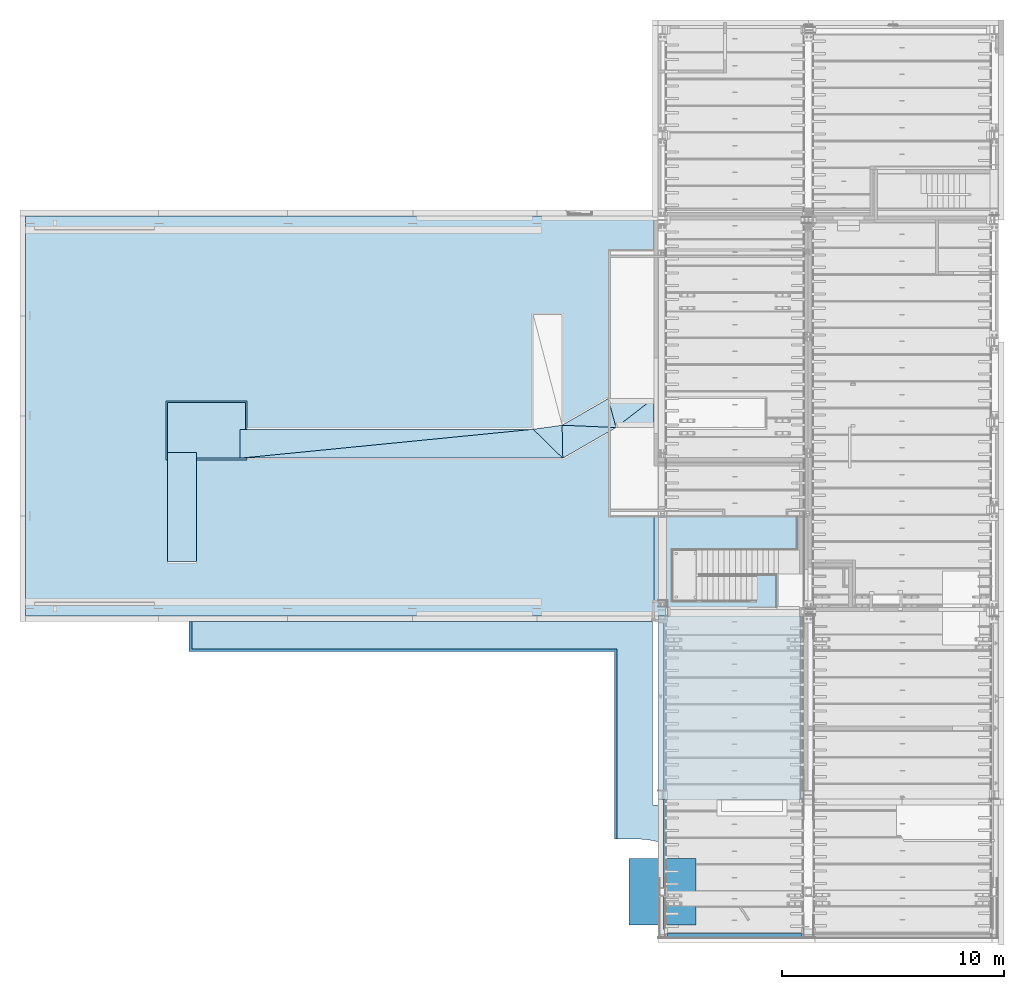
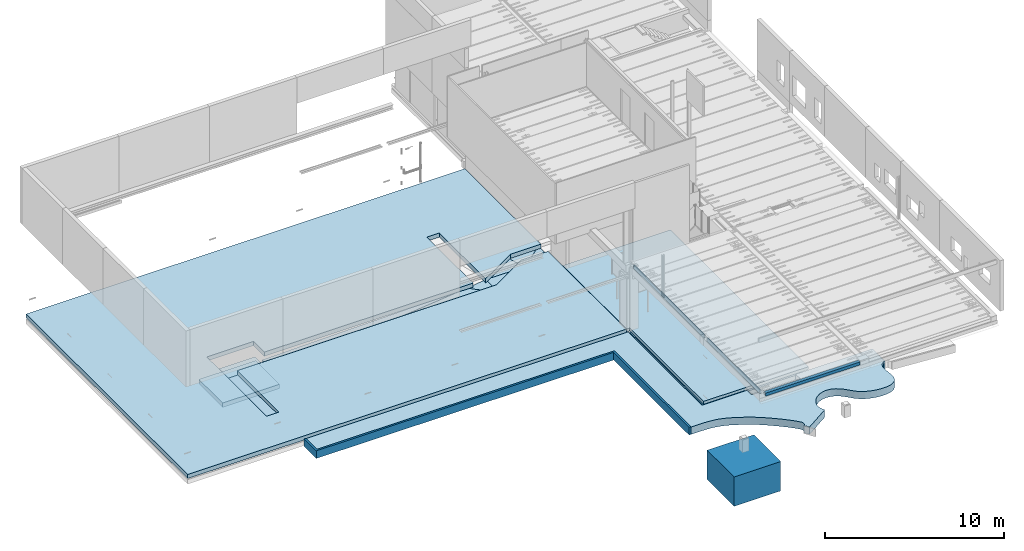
# One storey, part 63 of 230: 19 slabs, 1 element without a shape of its own.
"""IFC4X3_ADD2 building model written with IfcOpenShell, lengths in millimetres."""

from ifc_helpers import new_model, si_unit, direction, frame, frame_2d, origin_with_axes, place, context, subcontext, project, spatial, polyline, rectangle, outline, extrude, clip, bounded_halfspace, material, layer, layer_set, layer_usage, type_object, element, aggregate, save


model = new_model("IFC4X3_ADD2")

# Units and contexts
model_context = context("Model", 3, precision=1e-05, world=origin_with_axes(), true_north=direction((0.0, 1.0)))
body_context = subcontext(model_context, "Body", "Model", "MODEL_VIEW")
ifc_project = project(units=[si_unit("LENGTHUNIT", "METRE", prefix="MILLI"), si_unit("AREAUNIT", "SQUARE_METRE"), si_unit("VOLUMEUNIT", "CUBIC_METRE"), si_unit("PLANEANGLEUNIT", "RADIAN"), si_unit("TIMEUNIT", "SECOND"), si_unit("MASSUNIT", "GRAM")], contexts=[model_context])

# Site, building, storey
site_placement = place(None, origin_with_axes())
site = spatial("IfcSite", under=ifc_project, at=site_placement, Name="Site", CompositionType="ELEMENT")
building_placement = place(site_placement, origin_with_axes())
building = spatial("IfcBuilding", under=site, at=building_placement, Name="IFC Building Story")
storey_placement = place(building_placement, origin_with_axes())
storey = spatial("IfcBuildingStorey", under=building, at=storey_placement, Name="ETAGE 00 (0)", Elevation=0.0)

# Slabs
ifc_material_1 = material(Name="BS_16_Plot en béton maigre")
slab_type_1 = type_object("IfcSlabType", Name="BS_16_Plot en béton maigre 2000", PredefinedType="FLOOR", material=ifc_material_1)
slab_1_placement = place(storey_placement, frame((31901.6894781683, -13888.486405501, -3250.0), z_axis=(0.0, 0.0, 1.0), x_axis=(1.0, 0.0, 0.0)))
element("IfcSlab", 1, at=slab_1_placement, inside=storey, type_object=slab_type_1, Name="BS_17_SFO_UN_Plot rectangulaire:B.A. 300x300x200cm (béton maigre)", ObjectType="BS_17_SFO_UN_Plot rectangulaire:B.A. 300x300x200cm (béton maigre)", PredefinedType="BASESLAB", context=body_context, shape_type="SweptSolid", body=[
    extrude(rectangle(XDim=3000.0, YDim=3000.0, at=frame_2d((0.0, 5.95523630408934e-12), x_axis=(0.0, 1.0))), frame((1500.0, 1500.0, 0.0), z_axis=(0.0, 0.0, 1.0), x_axis=(1.0, 0.0, 0.0)), (0.0, 0.0, 1.0), 2000.0),
])
ifc_material_2 = material(Name="BS_13_Ossature en béton armé - Eléments coulé sur place")
slab_type_2 = type_object("IfcSlabType", Name="Sol:BS_13_FL_BTcoulé200", PredefinedType="FLOOR", material=ifc_material_2)
slab_2_placement = place(storey_placement, frame((33011.68947816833, 7128.839653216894, -200.0), z_axis=(0.0, 0.0, 1.0), x_axis=(0.0, -1.0, 0.0)))
element("IfcSlab", 2, at=slab_2_placement, inside=storey, type_object=slab_type_2, Name="Sol:BS_13_FL_BTcoulé200", ObjectType="Sol:BS_13_FL_BTcoulé200", PredefinedType="FLOOR", context=body_context, shape_type="SweptSolid", body=[
    extrude(outline(polyline([(7862.946596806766, -2186.666666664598), (-367.0534536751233, -2186.666666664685), (-367.0534536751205, -2376.666666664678), (-7495.893143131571, -2376.666666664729), (-7495.893143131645, 4563.333333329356), (7862.946596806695, 4563.333333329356), (7862.946596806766, -2186.666666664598)])), frame((7495.893143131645, 2376.666666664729, 0.0), z_axis=(0.0, 0.0, 1.0), x_axis=(1.0, 0.0, 0.0)), (0.0, 0.0, 1.0), 200.0),
])
ifc_material_3 = material(Name="BS_13_Sable stabilisé")
ifc_layer_1 = layer(ifc_material_3, 50.0)
ifc_material_4 = material(Name="BS_13_Empierrement sous dalle")
ifc_layer_2 = layer(ifc_material_4, 250.0)
ifc_layer_set_1 = layer_set([ifc_layer_1, ifc_layer_2], Name="Sol:BS_13_FL_STAB50-EMPI250 2")
ifc_layer_usage_1 = layer_usage(ifc_layer_set_1, "AXIS3", "POSITIVE", 0.0)
slab_type_3 = type_object("IfcSlabType", Name="Sol:BS_13_FL_STAB50-EMPI250 2 300", PredefinedType="FLOOR", material=ifc_layer_set_1)
slab_3_placement = place(storey_placement, frame((33201.68947816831, -1.000444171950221e-10, -580.0), z_axis=(0.0, 0.0, 1.0), x_axis=(0.0, -1.0, 0.0)))
element("IfcSlab", 3, at=slab_3_placement, inside=storey, type_object=slab_type_3, material=ifc_layer_usage_1, Name="Sol:BS_13_FL_STAB50-EMPI250", ObjectType="Sol:BS_13_FL_STAB50-EMPI250", PredefinedType="FLOOR", context=body_context, shape_type="SweptSolid", body=[
    extrude(rectangle(XDim=8249.7099133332, YDim=6419.999999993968, at=frame_2d((0.0, 5.95523630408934e-12), x_axis=(-1.0, 0.0))), frame((4124.8549566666, 3209.99999999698, 0.0), z_axis=(0.0, 0.0, 1.0), x_axis=(1.0, 0.0, 0.0)), (0.0, 0.0, 1.0), 300.0),
])
ifc_layer_usage_2 = layer_usage(ifc_layer_set_1, "AXIS3", "POSITIVE", 0.0)
slab_4_placement = place(storey_placement, frame((11071.68947818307, 7020.00000000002, -1910.0), z_axis=(0.0, 0.0, 1.0), x_axis=(1.0, 0.0, 0.0)))
element("IfcSlab", 4, at=slab_4_placement, inside=storey, type_object=slab_type_3, material=ifc_layer_usage_2, Name="Sol:BS_13_FL_STAB50-EMPI250", ObjectType="Sol:BS_13_FL_STAB50-EMPI250", PredefinedType="FLOOR", context=body_context, shape_type="SweptSolid", body=[
    extrude(rectangle(XDim=3660.000000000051, YDim=2659.99999999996, at=frame_2d((0.0, 5.95523630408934e-12), x_axis=(1.0, 0.0))), frame((1830.000000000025, 1329.99999999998, 0.0), z_axis=(0.0, 0.0, 1.0), x_axis=(1.0, 0.0, 0.0)), (0.0, 0.0, 1.0), 300.0),
])

slab_5_placement = place(storey_placement, origin_with_axes())
slab_5 = element("IfcSlab", 5, at=slab_5_placement, inside=storey, Name="Sol:BS_13_FL_BTcoulé250", ObjectType="Sol:BS_13_FL_BTcoulé250", PredefinedType="NOTDEFINED")
slab_type_4 = type_object("IfcSlabType", Name="Sol:BS_13_FL_BTcoulé250", PredefinedType="FLOOR", material=ifc_material_2)
slab_6_placement = place(slab_5_placement, frame((14401.68947818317, 7100.000000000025, -930.0), z_axis=(-0.0199044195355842, -0.00477225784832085, 0.9997904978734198), x_axis=(0.999801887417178, -9.500784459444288e-05, 0.01990419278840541)))
slab_6 = element("IfcSlab", 6, at=slab_6_placement, type_object=slab_type_4, Name="Sol:BS_13_FL_BTcoulé250", ObjectType="Sol:BS_13_FL_BTcoulé250", PredefinedType="FLOOR", context=body_context, shape_type="Clipping", body=[
    clip(clip(clip(extrude(outline(polyline([(-8448.197392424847, -261.5213129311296), (-8443.221344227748, -260.3280120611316), (4744.391287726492, 1040.939738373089), (6076.001748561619, -258.9485562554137), (6071.02570036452, -260.1418571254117), (-8448.197392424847, -261.5213129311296)])), frame((8448.197392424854, 261.5213129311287, 0.0), z_axis=(0.0, 0.0, 1.0), x_axis=(1.0, 0.0, 0.0)), (0.0, 0.0, 1.0), 249.9476244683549), bounded_halfspace(frame((-14380.32542299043, 4.439079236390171, 1216.462432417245), z_axis=(9.500784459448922e-05, -0.9999886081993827, 0.004772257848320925), x_axis=(0.9998018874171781, 0.0, -0.01990441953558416)), False, frame((8448.197392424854, 261.5213129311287, 0.0), z_axis=(0.0, 0.0, 1.0), x_axis=(1.0, 0.0, 0.0)), polyline([(-8448.197392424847, -261.5213129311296), (6071.02570036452, -260.1418571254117), (6076.001748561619, -258.9485562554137), (-8443.221344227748, -260.3280120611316), (-8448.197392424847, -261.5213129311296)]))), bounded_halfspace(frame((3278.696429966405, 10993.79738528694, 812.4347690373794), z_axis=(0.6984272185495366, 0.7154714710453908, -0.01732034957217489), x_axis=(-0.715404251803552, 0.698625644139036, 0.01090714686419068)), False, frame((8448.197392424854, 261.5213129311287, 0.0), z_axis=(0.0, 0.0, 1.0), x_axis=(1.0, 0.0, 0.0)), polyline([(6071.02570036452, -260.1418571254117), (4739.415239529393, 1039.746437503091), (4744.391287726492, 1040.939738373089), (6076.001748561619, -258.9485562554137), (6071.02570036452, -260.1418571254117)]))), bounded_halfspace(frame((-14934.71767275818, -1470.191920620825, 1234.539663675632), z_axis=(-0.09819621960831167, 0.9951631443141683, -0.002796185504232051), x_axis=(-0.9949680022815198, -0.09811999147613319, 0.02027662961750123)), False, frame((8448.197392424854, 261.5213129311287, 0.0), z_axis=(0.0, 0.0, 1.0), x_axis=(1.0, 0.0, 0.0)), polyline([(4739.415239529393, 1039.746437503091), (-8448.197392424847, -261.5213129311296), (-8443.221344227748, -260.3280120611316), (4744.391287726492, 1040.939738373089), (4739.415239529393, 1039.746437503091)]))),
])
slab_7_placement = place(slab_5_placement, frame((14401.68947818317, 7100.000000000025, -930.0), z_axis=(-0.0203749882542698, 0.0, 0.9997924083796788), x_axis=(0.9949659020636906, 0.09814128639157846, 0.0202766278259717)))
slab_7 = element("IfcSlab", 7, at=slab_7_placement, type_object=slab_type_4, Name="Sol:BS_13_FL_BTcoulé250", ObjectType="Sol:BS_13_FL_BTcoulé250", PredefinedType="FLOOR", context=body_context, shape_type="SweptSolid", body=[
    extrude(outline(polyline([(8791.910389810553, -431.5996129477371), (-4459.747031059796, -431.0623130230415), (-4332.163358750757, 862.6619259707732), (8791.910389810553, -431.5996129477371)])), frame((4459.7470310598, 431.0623130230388, 0.0), z_axis=(0.0, 0.0, 1.0), x_axis=(1.0, 0.0, 0.0)), (0.02027662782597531, -0.001999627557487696, 0.9997924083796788), 250.0),
])
slab_8_placement = place(slab_5_placement, frame((28918.03613018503, 7099.999999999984, -645.3999999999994), z_axis=(-0.02450045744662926, 0.002448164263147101, 0.9996968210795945), x_axis=(0.8657085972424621, 0.5001489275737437, 0.01999187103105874)))
slab_8 = element("IfcSlab", 8, at=slab_8_placement, type_object=slab_type_4, Name="Sol:BS_13_FL_BTcoulé250", ObjectType="Sol:BS_13_FL_BTcoulé250", PredefinedType="FLOOR", context=body_context, shape_type="Clipping", body=[
    clip(clip(clip(extrude(outline(polyline([(1516.429442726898, -262.6178242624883), (-1244.12238807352, -261.8244195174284), (-1249.120355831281, -258.2311009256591), (-534.6181737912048, 1041.697850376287), (1511.431474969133, -259.0245056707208), (1516.429442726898, -262.6178242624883)])), frame((1249.208320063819, 258.1678585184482, 4.398666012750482), z_axis=(0.0, 0.0, 1.0), x_axis=(1.0, 0.0, 0.0)), (0.0, 0.0, 1.0), 249.9242052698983), bounded_halfspace(frame((-28575.13530774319, -9.276511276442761, 1216.906026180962), z_axis=(-0.0002873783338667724, -0.9998966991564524, -0.01437040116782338), x_axis=(0.999800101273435, 0.0, -0.01999393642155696)), False, frame((1249.208320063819, 258.1678585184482, 4.398666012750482), z_axis=(0.0, 0.0, 1.0), x_axis=(1.0, 0.0, 0.0)), polyline([(-1249.120355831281, -258.2311009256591), (1511.431474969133, -259.0245056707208), (1516.429442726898, -262.6178242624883), (-1244.12238807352, -261.8244195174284), (-1249.120355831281, -258.2311009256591)]))), bounded_halfspace(frame((-23313.54489407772, 16572.88195253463, 1350.097283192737), z_axis=(0.5364905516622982, 0.8439051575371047, 0.001404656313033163), x_axis=(-0.8436694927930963, 0.5362998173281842, 0.02458236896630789)), False, frame((1249.208320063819, 258.1678585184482, 4.398666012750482), z_axis=(0.0, 0.0, 1.0), x_axis=(1.0, 0.0, 0.0)), polyline([(1511.431474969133, -259.0245056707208), (-534.6181737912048, 1041.697850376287), (-529.6202060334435, 1038.104531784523), (1516.429442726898, -262.6178242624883), (1511.431474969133, -259.0245056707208)]))), bounded_halfspace(frame((-3112.309803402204, -5694.152879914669, 625.9670545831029), z_axis=(-0.8760846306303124, 0.481537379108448, 0.02444325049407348), x_axis=(-0.4817427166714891, -0.8763076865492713, -0.002965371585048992)), False, frame((1249.208320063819, 258.1678585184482, 4.398666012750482), z_axis=(0.0, 0.0, 1.0), x_axis=(1.0, 0.0, 0.0)), polyline([(-534.6181737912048, 1041.697850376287), (-1249.120355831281, -258.2311009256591), (-1244.12238807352, -261.8244195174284), (-529.6202060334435, 1038.104531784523), (-534.6181737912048, 1041.697850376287)]))),
])
slab_9_placement = place(slab_5_placement, frame((27586.68947813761, 8399.99999999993, -661.3000000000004), z_axis=(-0.01260987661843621, 0.002700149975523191, 0.9999168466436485), x_axis=(0.7153846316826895, -0.6986457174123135, 0.01090826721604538)))
slab_9 = element("IfcSlab", 9, at=slab_9_placement, type_object=slab_type_4, Name="Sol:BS_13_FL_BTcoulé250", ObjectType="Sol:BS_13_FL_BTcoulé250", PredefinedType="FLOOR", context=body_context, shape_type="Clipping", body=[
    clip(clip(clip(extrude(outline(polyline([(-261.3306284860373, 624.5260721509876), (797.2427540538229, -414.584624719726), (794.5156872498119, -416.3041723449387), (-1066.370117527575, -416.4437996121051), (-264.0576952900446, 622.8065245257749), (-261.3306284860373, 624.5260721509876)])), frame((1066.370117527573, 416.4437996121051, 0.0), z_axis=(0.0, 0.0, 1.0), x_axis=(1.0, 0.0, 0.0)), (0.0, 0.0, 1.0), 249.9792116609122), bounded_halfspace(frame((6497.268495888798, -4540.065447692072, 621.7051909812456), z_axis=(0.700460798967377, 0.7135805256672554, -0.01254999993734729), x_axis=(-0.7136075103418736, 0.7005394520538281, 0.002966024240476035)), False, frame((1066.370117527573, 416.4437996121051, 0.0), z_axis=(0.0, 0.0, 1.0), x_axis=(1.0, 0.0, 0.0)), polyline([(794.5156872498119, -416.3041723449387), (-264.0576952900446, 622.8065245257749), (-261.3306284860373, 624.5260721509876), (797.2427540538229, -414.584624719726), (794.5156872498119, -416.3041723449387)]))), bounded_halfspace(frame((-17399.29106223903, -22544.92536244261, 1006.248080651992), z_axis=(-0.7915515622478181, 0.6110863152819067, 0.004431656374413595), x_axis=(-0.611005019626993, -0.7915340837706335, 0.01211033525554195)), False, frame((1066.370117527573, 416.4437996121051, 0.0), z_axis=(0.0, 0.0, 1.0), x_axis=(1.0, 0.0, 0.0)), polyline([(-264.0576952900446, 622.8065245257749), (-1066.370117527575, -416.4437996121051), (-1063.643050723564, -414.7242519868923), (-261.3306284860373, 624.5260721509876), (-264.0576952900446, 622.8065245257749)]))), bounded_halfspace(frame((-13861.15303618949, 4.548547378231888, 812.5374406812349), z_axis=(7.503091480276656e-05, -0.9999763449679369, 0.006877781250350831), x_axis=(0.9999405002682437, 0.0, -0.0109085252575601)), False, frame((1066.370117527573, 416.4437996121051, 0.0), z_axis=(0.0, 0.0, 1.0), x_axis=(1.0, 0.0, 0.0)), polyline([(-1066.370117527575, -416.4437996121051), (794.5156872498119, -416.3041723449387), (797.2427540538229, -414.584624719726), (-1063.643050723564, -414.7242519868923), (-1066.370117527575, -416.4437996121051)]))),
])
slab_10_placement = place(slab_5_placement, frame((31937.1432305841, 7665.641439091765, -585.8), z_axis=(-0.0212613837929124, 0.0, 0.9997739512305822), x_axis=(0.7912273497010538, 0.6112905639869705, 0.01682639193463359)))
slab_10 = element("IfcSlab", 10, at=slab_10_placement, type_object=slab_type_4, Name="Sol:BS_13_FL_BTcoulé250", ObjectType="Sol:BS_13_FL_BTcoulé250", PredefinedType="FLOOR", context=body_context, shape_type="Clipping", body=[
    clip(clip(extrude(outline(polyline([(728.3787896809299, 258.7153182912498), (732.5853876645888, 255.4660974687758), (-62.09234551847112, -773.3620224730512), (-1398.871831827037, 259.1806067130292), (728.3787896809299, 258.7153182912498)])), frame((1399.096864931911, 769.6475132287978, 13.3707949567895), z_axis=(0.0, 0.0, 1.0), x_axis=(1.0, 0.0, 0.0)), (0.0, 0.0, 1.0), 249.9434878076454), bounded_halfspace(frame((-3841.691545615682, -6718.738541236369, 563.2464681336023), z_axis=(0.7912273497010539, -0.6111523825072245, -0.02126138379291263), x_axis=(0.6112905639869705, 0.7914062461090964, 0.0)), False, frame((1399.096864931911, 769.6475132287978, 13.3707949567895), z_axis=(0.0, 0.0, 1.0), x_axis=(1.0, 0.0, 0.0)), polyline([(-66.29894350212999, -770.1128016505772), (728.3787896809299, 258.7153182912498), (732.5853876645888, 255.4660974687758), (-62.09234551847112, -773.3620224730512), (-66.29894350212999, -770.1128016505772)]))), bounded_halfspace(frame((-29948.33582579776, 1021.21454571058, 1103.244429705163), z_axis=(0.0002187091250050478, 0.9999155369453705, 0.01299504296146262), x_axis=(-0.9998584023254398, 0.0, 0.01682781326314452)), False, frame((1399.096864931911, 769.6475132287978, 13.3707949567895), z_axis=(0.0, 0.0, 1.0), x_axis=(1.0, 0.0, 0.0)), polyline([(728.3787896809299, 258.7153182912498), (-1398.871831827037, 259.1806067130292), (-1394.665233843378, 255.9313858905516), (732.5853876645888, 255.4660974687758), (728.3787896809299, 258.7153182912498)]))),
])
slab_11_placement = place(slab_5_placement, frame((31308.26624463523, 8480.000000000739, -590.0), z_axis=(-0.01968353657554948, -0.002044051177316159, 0.9998041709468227), x_axis=(0.7912539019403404, 0.6112561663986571, 0.01682740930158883)))
slab_11 = element("IfcSlab", 11, at=slab_11_placement, type_object=slab_type_4, Name="Sol:BS_13_FL_BTcoulé250", ObjectType="Sol:BS_13_FL_BTcoulé250", PredefinedType="FLOOR", context=body_context, shape_type="Clipping", body=[
    clip(clip(clip(extrude(outline(polyline([(-116.6091929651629, 746.7134306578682), (-112.4023406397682, 744.1098507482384), (1495.906555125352, -498.0575088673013), (-631.3440845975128, -497.6846762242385), (-635.5509369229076, -495.0810963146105), (-116.6091929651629, 746.7134306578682)])), frame((635.621612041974, 495.0373561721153, 4.199177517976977), z_axis=(0.0, 0.0, 1.0), x_axis=(1.0, 0.0, 0.0)), (0.0, 0.0, 1.0), 249.9510427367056), bounded_halfspace(frame((-29948.48933129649, -6.144448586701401, 1094.105755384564), z_axis=(-0.0001752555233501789, -0.99994576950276, -0.01041284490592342), x_axis=(0.9998583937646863, 0.0, -0.01682832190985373)), False, frame((635.621612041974, 495.0373561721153, 4.199177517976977), z_axis=(0.0, 0.0, 1.0), x_axis=(1.0, 0.0, 0.0)), polyline([(-635.5509369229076, -495.0810963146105), (1491.699702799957, -495.4539289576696), (1495.906555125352, -498.0575088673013), (-631.3440845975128, -497.6846762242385), (-635.5509369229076, -495.0810963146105)]))), bounded_halfspace(frame((-23968.22664124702, 20157.41480798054, 1203.484598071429), z_axis=(0.6112561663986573, 0.7914301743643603, -0.002044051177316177), x_axis=(-0.7912539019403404, 0.6111708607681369, 0.01968353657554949)), False, frame((635.621612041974, 495.0373561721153, 4.199177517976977), z_axis=(0.0, 0.0, 1.0), x_axis=(1.0, 0.0, 0.0)), polyline([(1491.699702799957, -495.4539289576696), (-116.6091929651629, 746.7134306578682), (-112.4023406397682, 744.1098507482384), (1495.906555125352, -498.0575088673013), (1491.699702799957, -495.4539289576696)]))), bounded_halfspace(frame((-23.95980655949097, -87.22232236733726, 589.6102831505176), z_axis=(-0.9224973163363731, 0.3855085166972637, 0.01954187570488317), x_axis=(-0.3856365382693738, -0.9226455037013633, -0.003120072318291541)), False, frame((635.621612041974, 495.0373561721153, 4.199177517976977), z_axis=(0.0, 0.0, 1.0), x_axis=(1.0, 0.0, 0.0)), polyline([(-116.6091929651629, 746.7134306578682), (-635.5509369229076, -495.0810963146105), (-631.3440845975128, -497.6846762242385), (-112.4023406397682, 744.1098507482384), (-116.6091929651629, 746.7134306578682)]))),
])
slab_12_placement = place(slab_5_placement, frame((28886.689478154, 8583.012701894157, -645.3999999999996), z_axis=(-0.02474909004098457, -0.00340173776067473, 0.999687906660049), x_axis=(0.9987898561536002, -0.04259757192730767, 0.02458190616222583)))
slab_12 = element("IfcSlab", 12, at=slab_12_placement, type_object=slab_type_4, Name="Sol:BS_13_FL_BTcoulé250", ObjectType="Sol:BS_13_FL_BTcoulé250", PredefinedType="FLOOR", context=body_context, shape_type="Clipping", body=[
    clip(clip(clip(extrude(outline(polyline([(246.5516804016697, 771.1144613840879), (649.9441838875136, -512.8748956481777), (643.798707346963, -513.9878637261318), (-1780.700775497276, -514.253195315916), (240.4062038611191, 770.0014933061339), (246.5516804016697, 771.1144613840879)])), frame((1780.700775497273, 514.2531953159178, 0.0), z_axis=(0.0, 0.0, 1.0), x_axis=(1.0, 0.0, 0.0)), (0.0, 0.0, 1.0), 249.9219766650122), bounded_halfspace(frame((2465.231606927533, -80.96374734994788, 585.3430298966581), z_axis=(0.9537318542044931, 0.2996351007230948, -0.02478621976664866), x_axis=(-0.2996519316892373, 0.9540434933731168, 0.003119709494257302)), False, frame((1780.700775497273, 514.2531953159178, 0.0), z_axis=(0.0, 0.0, 1.0), x_axis=(1.0, 0.0, 0.0)), polyline([(643.798707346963, -513.9878637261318), (240.4062038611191, 770.0014933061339), (246.5516804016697, 771.1144613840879), (649.9441838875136, -512.8748956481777), (643.798707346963, -513.9878637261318)]))), bounded_halfspace(frame((-24710.76288366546, -15716.53062349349, 1323.218609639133), z_axis=(-0.5362855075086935, 0.8439839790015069, 0.009428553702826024), x_axis=(-0.8436786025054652, -0.5363499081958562, 0.02313420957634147)), False, frame((1780.700775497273, 514.2531953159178, 0.0), z_axis=(0.0, 0.0, 1.0), x_axis=(1.0, 0.0, 0.0)), polyline([(240.4062038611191, 770.0014933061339), (-1780.700775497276, -514.253195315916), (-1774.555298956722, -513.1402272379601), (246.5516804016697, 771.1144613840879), (240.4062038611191, 770.0014933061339)]))), bounded_halfspace(frame((-28471.32456940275, 2.873238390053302, 1345.686617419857), z_axis=(0.0001094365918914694, -0.9999900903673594, 0.004450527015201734), x_axis=(0.9996978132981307, 0.0, -0.0245821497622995)), False, frame((1780.700775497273, 514.2531953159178, 0.0), z_axis=(0.0, 0.0, 1.0), x_axis=(1.0, 0.0, 0.0)), polyline([(-1780.700775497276, -514.253195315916), (643.798707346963, -513.9878637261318), (649.9441838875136, -512.8748956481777), (-1774.555298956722, -513.1402272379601), (-1780.700775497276, -514.253195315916)]))),
])
slab_13_placement = place(slab_5_placement, frame((11151.68947818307, 7349.999999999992, -560.0), z_axis=(0.0, 0.0199960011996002, 0.999800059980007), x_axis=(0.0, -0.9998000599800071, 0.0199960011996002)))
slab_13 = element("IfcSlab", 13, at=slab_13_placement, type_object=slab_type_4, Name="Sol:BS_13_FL_BTcoulé250", ObjectType="Sol:BS_13_FL_BTcoulé250", PredefinedType="FLOOR", context=body_context, shape_type="Clipping", body=[
    clip(clip(extrude(outline(polyline([(-2452.989451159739, 650.0000000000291), (2452.989451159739, 650.0000000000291), (2452.989451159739, -650.0000000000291), (-2452.989451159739, -650.0000000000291), (-2452.989451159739, 650.0000000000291)])), frame((2452.989451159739, 650.0000000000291, 0.0), z_axis=(0.0, 0.0, 1.0), x_axis=(1.0, 0.0, 0.0)), (0.0, 0.0, 1.0), 249.9500149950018), bounded_halfspace(frame((4910.218054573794, -11151.68947818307, 461.9076277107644), z_axis=(0.999800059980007, 0.0, -0.01999600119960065), x_axis=(0.0, 1.0, 0.0)), False, frame((2452.989451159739, 650.0000000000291, 0.0), z_axis=(0.0, 0.0, 1.0), x_axis=(1.0, 0.0, 0.0)), polyline([(2447.990450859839, -650.0000000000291), (2447.990450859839, 650.0000000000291), (2452.989451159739, 650.0000000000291), (2452.989451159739, -650.0000000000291), (2447.990450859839, -650.0000000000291)]))), bounded_halfspace(frame((11.19776067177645, -11151.68947818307, 559.8880335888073), z_axis=(-0.999800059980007, 0.0, 0.01999600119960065), x_axis=(0.0, -1.0, 0.0)), False, frame((2452.989451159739, 650.0000000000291, 0.0), z_axis=(0.0, 0.0, 1.0), x_axis=(1.0, 0.0, 0.0)), polyline([(-2452.989451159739, 650.0000000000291), (-2452.989451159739, -650.0000000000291), (-2447.99045085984, -650.0000000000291), (-2447.99045085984, 650.0000000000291), (-2452.989451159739, 650.0000000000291)]))),
])
aggregate(slab_5, [slab_6, slab_7, slab_8, slab_9, slab_10, slab_11, slab_12, slab_13])

slab_14_placement = place(storey_placement, frame((11151.68947818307, 7100.701776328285, -1530.0), z_axis=(0.0, 0.0, 1.0), x_axis=(1.0, 0.0, 0.0)))
element("IfcSlab", 14, at=slab_14_placement, inside=storey, type_object=slab_type_4, Name="Sol:BS_13_FL_BTcoulé250", ObjectType="Sol:BS_13_FL_BTcoulé250", PredefinedType="FLOOR", context=body_context, shape_type="SweptSolid", body=[
    extrude(rectangle(XDim=3500.000000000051, YDim=2499.99999999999, at=frame_2d((0.0, 5.95523630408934e-12), x_axis=(1.0, 0.0))), frame((1750.000000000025, 1249.999999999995, 0.0), z_axis=(0.0, 0.0, 1.0), x_axis=(1.0, 0.0, 0.0)), (0.0, 0.0, 1.0), 250.0),
])
slab_type_5 = type_object("IfcSlabType", Name="Sol:BS_13_FL_BTcoulé280", PredefinedType="FLOOR", material=ifc_material_2)
slab_15_placement = place(storey_placement, frame((4766.189478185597, -8.141796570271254e-09, -280.0), z_axis=(0.0, 0.0, 1.0), x_axis=(1.0, 0.0, 0.0)))
element("IfcSlab", 15, at=slab_15_placement, inside=storey, type_object=slab_type_5, Name="Sol:BS_13_FL_BTcoulé280", ObjectType="Sol:BS_13_FL_BTcoulé280", PredefinedType="FLOOR", context=body_context, shape_type="SweptSolid", body=[
    extrude(outline(polyline([(10803.51689806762, 184.2105263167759), (10803.51689806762, -8545.789473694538), (-17421.98310191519, -8545.789473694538), (-17421.98310191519, 9454.21052631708), (10803.51689806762, 9454.21052631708), (10803.51689806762, 984.210526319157), (8838.747012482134, 984.210526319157), (6448.516898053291, -395.7894736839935), (6448.516898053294, 4754.210526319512), (5648.516898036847, 4754.210526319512), (5648.516898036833, -395.7894736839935), (-7786.483101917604, -395.7894736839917), (-7786.483101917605, 804.2105263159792), (-10786.48310191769, 804.2105263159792), (-10786.48310191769, -5845.789473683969), (-9986.483101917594, -5845.78947368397), (-9986.483101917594, -1195.789473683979), (6662.876251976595, -1195.789473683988), (9053.106366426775, 184.2105263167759), (10803.51689806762, 184.2105263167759)])), frame((17421.98310191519, 8545.78947369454, 0.0), z_axis=(0.0, 0.0, 1.0), x_axis=(1.0, 0.0, 0.0)), (0.0, 0.0, 1.0), 280.0),
])
ifc_material_5 = material(Name="BS_92_Klinker")
ifc_layer_3 = layer(ifc_material_5, 200.0)
ifc_layer_4 = layer(ifc_material_3, 150.0)
ifc_layer_5 = layer(ifc_material_4, 150.0)
ifc_layer_set_2 = layer_set([ifc_layer_3, ifc_layer_4, ifc_layer_5], Name="Sol:BS_13_FL_BTcoulé500 exterieur")
ifc_layer_usage_3 = layer_usage(ifc_layer_set_2, "AXIS3", "POSITIVE", 0.0)
slab_type_6 = type_object("IfcSlabType", Name="Sol:BS_13_FL_BTcoulé500 exterieur 500", PredefinedType="FLOOR", material=ifc_layer_set_2)
slab_16_placement = place(storey_placement, frame((12238.36986744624, -13311.7536219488, -520.0), z_axis=(0.0, 0.0, 1.0), x_axis=(1.0, 0.0, 0.0)))
element("IfcSlab", 16, at=slab_16_placement, inside=storey, type_object=slab_type_6, material=ifc_layer_usage_3, Name="Sol:BS_13_FL_BTcoulé500 exterieur", ObjectType="Sol:BS_13_FL_BTcoulé500 exterieur", PredefinedType="FLOOR", context=body_context, shape_type="SweptSolid", body=[
    extrude(outline(polyline([(-5907.951591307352, 751.4810336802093), (-5907.951591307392, 9281.485557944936), (-25033.69032519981, 9281.485557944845), (-25033.69032519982, 10511.4855579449), (-4320.370714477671, 10511.4855579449), (-4320.370714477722, 2281.775644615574), (-1415.370714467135, 2281.775644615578), (-1415.370714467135, 1782.645818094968), (1714.629285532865, 1782.645818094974), (1714.629285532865, 2281.485471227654), (6653.075538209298, 2281.485471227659), (6653.075538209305, 888.4019057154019), (6561.336788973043, 882.7081101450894), (6359.399519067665, 731.1043379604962), (6271.443629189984, 497.8035781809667), (6259.498640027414, 209.6597259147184), (6311.714563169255, -423.7575109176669), (6299.912075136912, -715.3310229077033), (6213.580787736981, -955.12218490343), (6043.754675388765, -1132.478093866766), (5806.911453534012, -1250.948967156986), (5520.478041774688, -1314.614883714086), (5201.88135971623, -1327.55592247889), (4868.548326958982, -1293.85216239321), (4537.905863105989, -1217.583682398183), (4227.380887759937, -1102.830561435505), (3954.40032052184, -953.6728784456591), (3733.587066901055, -774.8888239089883), (3370.652968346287, -381.4890731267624), (3166.225330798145, -200.1595589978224), (2932.653807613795, -51.76094044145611), (2677.15081357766, 46.40783289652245), (2407.264813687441, 77.90868586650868), (2135.090312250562, 39.91763861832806), (1876.348756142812, -59.5276267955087), (1646.598418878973, -212.1215970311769), (1457.737673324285, -410.0371218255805), (1318.989912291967, -645.7966810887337), (1241.793943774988, -908.5727965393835), (1246.023284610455, -1174.318639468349), (1330.714506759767, -1428.287055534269), (1385.384887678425, -1523.535965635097), (-182.9204773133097, -2550.268063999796), (-365.8769199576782, -2271.355140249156), (-358.9169815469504, -2263.722159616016), (-351.0845695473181, -2254.156548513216), (-327.2941885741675, -2222.600961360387), (-306.7216415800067, -2190.604193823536), (-300.695746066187, -2179.539666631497), (-298.0395957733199, -2170.930660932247), (-294.2244506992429, -2141.914568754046), (-289.7888037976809, -2113.141026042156), (-286.4184540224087, -2075.188355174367), (-288.2914605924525, -2030.837318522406), (-299.5930988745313, -1982.823607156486), (-325.0840615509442, -1930.288915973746), (-370.5102145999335, -1866.221650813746), (-441.7140950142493, -1783.006420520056), (-544.4560100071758, -1673.299122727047), (-683.2290328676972, -1533.936456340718), (-861.5315296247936, -1365.036813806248), (-1082.83514563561, -1166.80674318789), (-1348.067375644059, -941.5259190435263), (-1643.919402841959, -703.0746163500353), (-1952.133242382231, -469.3659890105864), (-2254.472724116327, -258.2879324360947), (-2539.615730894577, -80.16277682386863), (-2812.322582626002, 72.28503502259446), (-3079.635142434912, 208.82759366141), (-3348.602711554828, 338.8866177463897), (-3626.461515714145, 463.0787583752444), (-3920.64395791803, 572.7797472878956), (-4238.59173118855, 658.9277101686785), (-4585.325290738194, 713.9052798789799), (-4946.636369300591, 741.5669188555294), (-5299.147055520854, 751.2376866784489), (-5890.205074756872, 751.6950825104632), (-5907.951591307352, 751.4810336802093)])), frame((25033.69032519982, 2550.268063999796, 0.0), z_axis=(0.0, 0.0, 1.0), x_axis=(1.0, 0.0, 0.0)), (0.0, 0.0, 1.0), 500.0),
])
ifc_material_6 = material(Name="21_Bordure_BetonPrefabrique_500")
slab_type_7 = type_object("IfcSlabType", Name="Sol:BS_13_FL_BTbordure en beton", PredefinedType="FLOOR", material=ifc_material_6)
slab_17_placement = place(storey_placement, frame((12118.3698674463, -10011.45189900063, -520.0), z_axis=(0.0, -1.0, 0.0), x_axis=(1.0, 0.0, 0.0)))
element("IfcSlab", 17, at=slab_17_placement, inside=storey, type_object=slab_type_7, Name="Sol:BS_13_FL_BTbordure en beton:2", ObjectType="Sol:BS_13_FL_BTbordure en beton", PredefinedType="FLOOR", context=body_context, shape_type="Clipping", body=[
    clip(clip(clip(extrude(outline(polyline([(-9622.869366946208, 260.0), (9622.869366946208, 260.0), (9622.869366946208, -260.0), (-9622.869366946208, -260.0), (-9622.869366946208, 260.0)])), frame((9622.869366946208, 260.0, -9761.451898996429), z_axis=(0.0, 0.0, 1.0), x_axis=(1.0, 0.0, 0.0)), (0.0, 0.0, 1.0), 9761.45189899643), bounded_halfspace(frame((-12118.3698674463, 520.0, -8411.45189899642), z_axis=(0.0, 0.0, 1.0), x_axis=(1.0, 0.0, 0.0)), False, frame((9622.869366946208, 260.0, -9761.451898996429), z_axis=(0.0, 0.0, 1.0), x_axis=(1.0, 0.0, 0.0)), polyline([(-9622.869366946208, -260.0), (9502.8693669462, -260.0), (9502.8693669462, 260.0), (-9622.869366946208, 260.0), (-9622.869366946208, -260.0)]))), bounded_halfspace(frame((-11993.09005241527, 520.0, 375.3383872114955), z_axis=(0.01206057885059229, 0.0, 0.9999272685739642), x_axis=(0.9999272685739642, 0.0, -0.01206057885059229)), False, frame((9622.869366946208, 260.0, -9761.451898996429), z_axis=(0.0, 0.0, 1.0), x_axis=(1.0, 0.0, 0.0)), polyline([(9502.8693669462, -260.0), (9622.869366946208, -260.0), (9622.869366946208, 260.0), (9502.8693669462, 260.0), (9502.8693669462, -260.0)]))), bounded_halfspace(frame((-12118.3698674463, 520.0, -8531.451898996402), z_axis=(0.0, 0.0, -1.0), x_axis=(-1.0, 0.0, 0.0)), False, frame((9622.869366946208, 260.0, -9761.451898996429), z_axis=(0.0, 0.0, 1.0), x_axis=(1.0, 0.0, 0.0)), polyline([(9622.869366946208, -260.0), (-9502.869366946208, -260.0), (-9502.869366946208, 260.0), (9622.869366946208, 260.0), (9622.869366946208, -260.0)]))),
])
ifc_material_7 = material(Name="BS_28_Ossature en béton armé - Eléments coulé sur place")
slab_type_8 = type_object("IfcSlabType", Name="Sol:BS_23_FL_BTremplissage chape de compression", PredefinedType="FLOOR", material=ifc_material_7)
slab_18_placement = place(storey_placement, frame((33446.18800000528, -8209.999999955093, 4000.0), z_axis=(-1.0, 0.0, 0.0), x_axis=(0.0, -1.0, 0.0)))
element("IfcSlab", 18, at=slab_18_placement, inside=storey, type_object=slab_type_8, Name="Sol:BS_23_FL_BTremplissage chape de compression", ObjectType="Sol:BS_23_FL_BTremplissage chape de compression", PredefinedType="FLOOR", context=body_context, shape_type="SweptSolid", body=[
    extrude(outline(polyline([(2930.000000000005, -100.0), (-2930.000000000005, -100.0), (-2930.000000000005, 100.0), (2930.000000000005, 100.0), (2930.000000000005, -100.0)])), frame((2930.000000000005, 100.0, -69.50422475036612), z_axis=(0.0, 0.0, 1.0), x_axis=(1.0, 0.0, 0.0)), (0.0, 0.0, 1.0), 69.50422475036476),
])
slab_19_placement = place(storey_placement, frame((33446.18800000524, -3.619470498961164e-05, 4000.0), z_axis=(-1.0, 0.0, 0.0), x_axis=(0.0, -1.0, 0.0)))
element("IfcSlab", 19, at=slab_19_placement, inside=storey, type_object=slab_type_8, Name="Sol:BS_23_FL_BTremplissage chape de compression:2", ObjectType="Sol:BS_23_FL_BTremplissage chape de compression", PredefinedType="FLOOR", context=body_context, shape_type="SweptSolid", body=[
    extrude(outline(polyline([(3925.000025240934, -100.0), (-3925.000025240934, -100.0), (-3925.000025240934, 100.0), (3925.000025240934, 100.0), (3925.000025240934, -100.0)])), frame((3925.000025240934, 100.0, -69.50422475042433), z_axis=(0.0, 0.0, 1.0), x_axis=(1.0, 0.0, 0.0)), (0.0, 0.0, 1.0), 69.50422475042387),
])
slab_20_placement = place(storey_placement, frame((33601.68947817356, -14459.99999999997, 4000.0), z_axis=(0.0, 0.0, 1.0), x_axis=(1.0, 0.0, 0.0)))
element("IfcSlab", 20, at=slab_20_placement, inside=storey, type_object=slab_type_8, Name="Sol:BS_23_FL_BTremplissage chape de compression:19", ObjectType="Sol:BS_23_FL_BTremplissage chape de compression", PredefinedType="FLOOR", context=body_context, shape_type="SweptSolid", body=[
    extrude(rectangle(XDim=6069.499521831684, YDim=200.0002289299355, at=frame_2d((0.0, 5.95523630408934e-12), x_axis=(1.0, 0.0))), frame((3034.749760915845, 100.0001144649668, 0.0), z_axis=(0.0, 0.0, 1.0), x_axis=(1.0, 0.0, 0.0)), (0.0, 0.0, 1.0), 200.0),
])

save(model, "model.ifc")
